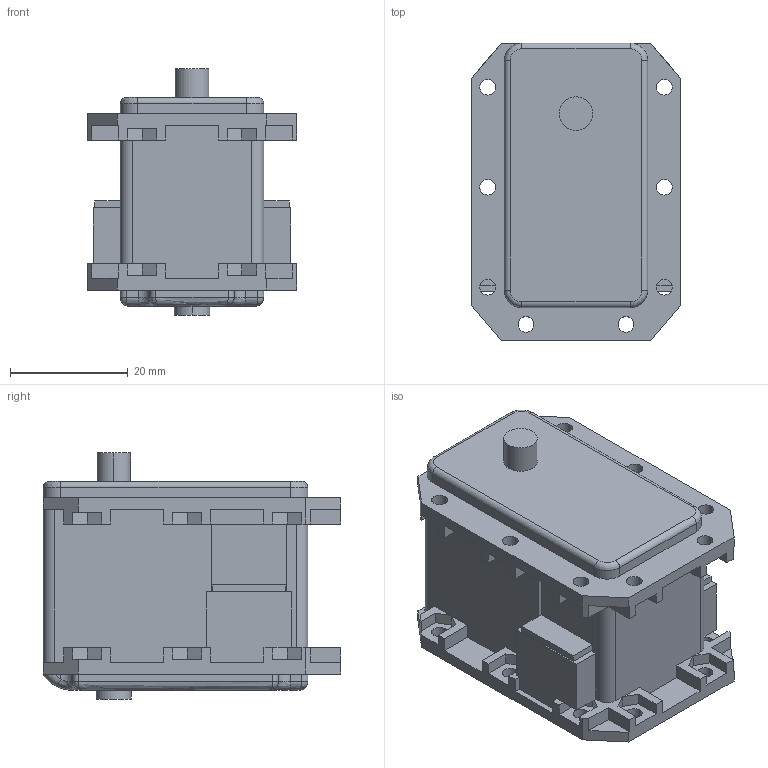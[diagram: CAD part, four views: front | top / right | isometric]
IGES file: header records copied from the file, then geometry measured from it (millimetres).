
Start section:  PTC IGES file: RX-28.igs
Global section: file name: RX-28.igs; native system: Pro/ENGINEER by Parametric Technology Corporation; preprocessor: 2009060; author: Andy; organization: Unknown; date: 20111114.111419; units: millimetre
Bounding box: 35.6 x 50.6 x 41.85 mm (x, y, z)
Surface area: 10892.2 mm2 (no closed solid volume)
Topology: 0 solids, 0 shells, 333 faces, 1820 edges, 1820 vertices
Faces by surface type: bspline 249, revolution 84
